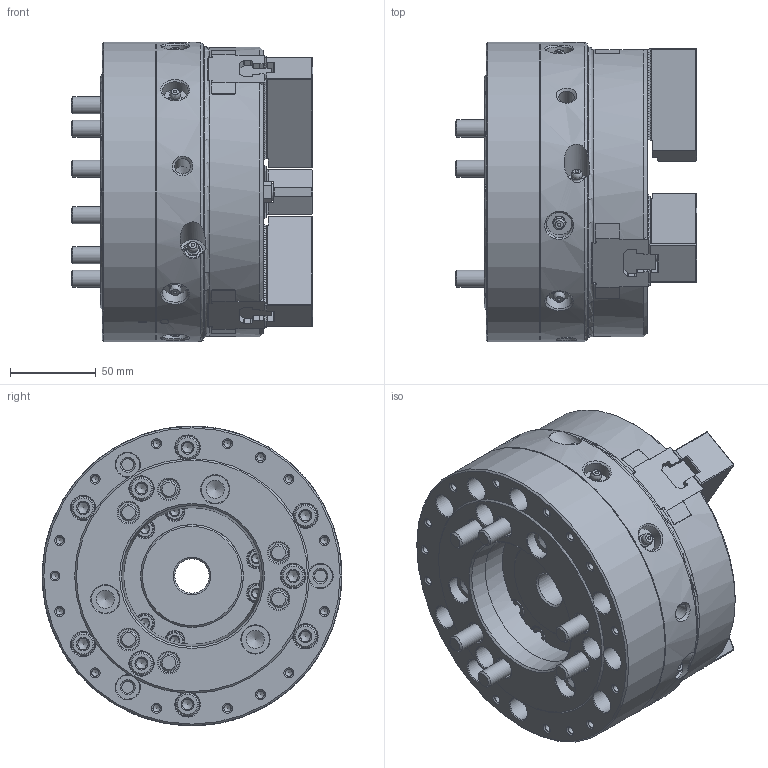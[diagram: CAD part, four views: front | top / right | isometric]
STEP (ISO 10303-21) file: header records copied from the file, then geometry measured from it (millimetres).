
FILE_DESCRIPTION (( 'STEP AP214' ), '1' );
FILE_NAME ('DT1_HOH-206_OUTSIDE_VIEW_HCL.STEP', '2024-05-09T06:11:56', ( '' ), ( '' ), 'SwSTEP 2.0', 'SolidWorks 2022', '' );
FILE_SCHEMA (( 'AUTOMOTIVE_DESIGN' ));
Length unit declared in the file: millimetre
Products named in the file (9): DT1_HOH-206_DRAWNUT^DT1_HOH-206_ﾃﾞﾌｫﾙﾄ; DT1_HOH-206_M5x10^DT1_HOH-206_ﾃﾞﾌｫﾙﾄ; DT1_HOH-206_BASE^DT1_HOH-206_ﾃﾞﾌｫﾙﾄ; DT1_HOH-206_OUTSIDE_VIEW_HCL; DT1_HOH-206_COVER^DT1_HOH-206_ﾃﾞﾌｫﾙﾄ; DT1_HOH-206_TNUT^DT1_HOH-206_ﾃﾞﾌｫﾙﾄ; DT1_HOH-206_M10x25^DT1_HOH-206_ﾃﾞﾌｫﾙﾄ; DT1_HOH-206_SOFTJAW^DT1_HOH-206_ﾃﾞﾌｫﾙﾄ; DT1_HOH-206_M10x100^DT1_HOH-206_ﾃﾞﾌｫﾙﾄ
Assembly tree (24 placements, depth 2):
  DT1_HOH-206_OUTSIDE_VIEW_HCL
    DT1_HOH-206_SOFTJAW^DT1_HOH-206_ﾃﾞﾌｫﾙﾄ  x3
    DT1_HOH-206_TNUT^DT1_HOH-206_ﾃﾞﾌｫﾙﾄ  x3
    DT1_HOH-206_DRAWNUT^DT1_HOH-206_ﾃﾞﾌｫﾙﾄ
    DT1_HOH-206_COVER^DT1_HOH-206_ﾃﾞﾌｫﾙﾄ
    DT1_HOH-206_BASE^DT1_HOH-206_ﾃﾞﾌｫﾙﾄ
    DT1_HOH-206_M5x10^DT1_HOH-206_ﾃﾞﾌｫﾙﾄ  x3
    DT1_HOH-206_M10x25^DT1_HOH-206_ﾃﾞﾌｫﾙﾄ  x6
    DT1_HOH-206_M10x100^DT1_HOH-206_ﾃﾞﾌｫﾙﾄ  x6
Bounding box: 141 x 175 x 175 mm (x, y, z)
Volume: 2019213.8 mm3; surface area: 314200.3 mm2
Topology: 24 solids, 56 shells, 3698 faces, 10064 edges, 6596 vertices
Faces by surface type: plane 2659, cone 406, cylinder 386, bspline 172, torus 57, sphere 18
Full cylindrical faces by diameter (mm): 4.2 x18, 5 x3, 5.5 x6, 6.4 x3, 7 x12, 8 x6, 8.6 x6, 9 x9, 9.5 x3, 10 x15, 11 x6, 11.5 x3, 12 x12, 13.27 x9, 14 x12, 15 x10, 16.27 x12, 16.28 x3, 17 x12, 20 x1, 45 x1, 48 x2, 55.5 x1, 57.8 x2, 60 x2, 65.5 x2, 79.8 x1, 170.6 x1, 171 x2, 171.4 x1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
Entity records: 107357 total; most frequent: CARTESIAN_POINT 37066, ORIENTED_EDGE 14980, DIRECTION 12867, EDGE_CURVE 7490, VERTEX_POINT 5087, LINE 4935, VECTOR 4935, AXIS2_PLACEMENT_3D 3966
